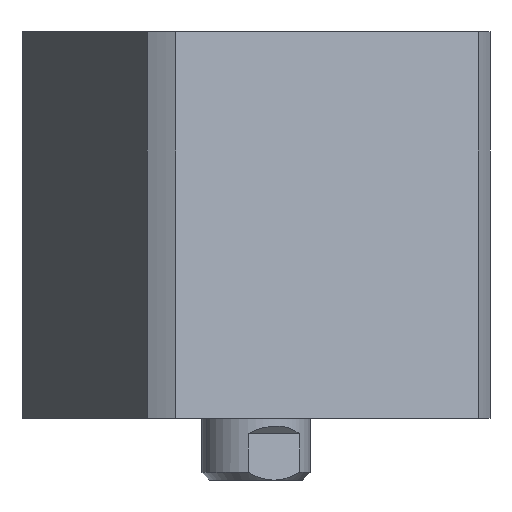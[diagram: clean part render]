
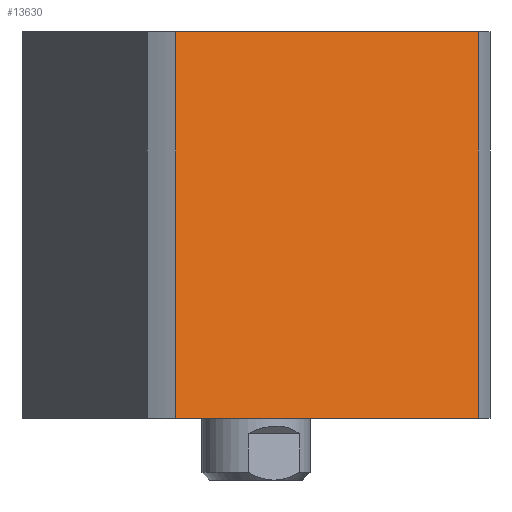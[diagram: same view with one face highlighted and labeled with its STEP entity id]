
A CAD part, left-side view. The second image highlights one B-rep face of the part: STEP entity #13630.
In plain terms, the highlighted planar face has unit normal (-0.924, -0.383, 0) as drawn and (1, 0, 0) by its records, which use the part's own axes.
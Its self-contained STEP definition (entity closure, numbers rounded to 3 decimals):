
#52 = CARTESIAN_POINT ( 'NONE',  ( 24., 21.166, 50. ) ) ;
#577 = VECTOR ( 'NONE', #4266, 1000. ) ;
#1816 = DIRECTION ( 'NONE',  ( 0., 0., 1. ) ) ;
#2322 = EDGE_CURVE ( 'NONE', #10762, #3694, #11502, .T. ) ;
#2700 = PLANE ( 'NONE',  #5587 ) ;
#3204 = CARTESIAN_POINT ( 'NONE',  ( 24., 21.166, 0. ) ) ;
#3505 = LINE ( 'NONE', #10875, #577 ) ;
#3694 = VERTEX_POINT ( 'NONE', #3204 ) ;
#4266 = DIRECTION ( 'NONE',  ( 0., 1., 0. ) ) ;
#4421 = EDGE_CURVE ( 'NONE', #6967, #5527, #11371, .T. ) ;
#4763 = LINE ( 'NONE', #7357, #13229 ) ;
#5337 = DIRECTION ( 'NONE',  ( 0., 0., -1. ) ) ;
#5527 = VERTEX_POINT ( 'NONE', #9326 ) ;
#5587 = AXIS2_PLACEMENT_3D ( 'NONE', #11540, #13755, #7166 ) ;
#5645 = VECTOR ( 'NONE', #5337, 1000. ) ;
#5759 = EDGE_CURVE ( 'NONE', #5527, #10762, #4763, .T. ) ;
#6287 = CARTESIAN_POINT ( 'NONE',  ( 24., -21.166, 0. ) ) ;
#6454 = CARTESIAN_POINT ( 'NONE',  ( 24., 21.166, -250. ) ) ;
#6967 = VERTEX_POINT ( 'NONE', #6287 ) ;
#7166 = DIRECTION ( 'NONE',  ( 0., -1., 0. ) ) ;
#7357 = CARTESIAN_POINT ( 'NONE',  ( 24., 24., 50. ) ) ;
#8322 = EDGE_LOOP ( 'NONE', ( #10142, #9273, #11194, #8964 ) ) ;
#8447 = VECTOR ( 'NONE', #1816, 1000. ) ;
#8456 = DIRECTION ( 'NONE',  ( 0., 1., 0. ) ) ;
#8964 = ORIENTED_EDGE ( 'NONE', *, *, #5759, .F. ) ;
#9273 = ORIENTED_EDGE ( 'NONE', *, *, #12483, .T. ) ;
#9326 = CARTESIAN_POINT ( 'NONE',  ( 24., -21.166, 50. ) ) ;
#9549 = CARTESIAN_POINT ( 'NONE',  ( 24., -21.166, -250. ) ) ;
#10142 = ORIENTED_EDGE ( 'NONE', *, *, #4421, .F. ) ;
#10396 = FACE_OUTER_BOUND ( 'NONE', #8322, .T. ) ;
#10762 = VERTEX_POINT ( 'NONE', #52 ) ;
#10875 = CARTESIAN_POINT ( 'NONE',  ( 24., 24., 0. ) ) ;
#11194 = ORIENTED_EDGE ( 'NONE', *, *, #2322, .F. ) ;
#11371 = LINE ( 'NONE', #9549, #8447 ) ;
#11502 = LINE ( 'NONE', #6454, #5645 ) ;
#11540 = CARTESIAN_POINT ( 'NONE',  ( 24., 24., 50. ) ) ;
#12483 = EDGE_CURVE ( 'NONE', #6967, #3694, #3505, .T. ) ;
#13229 = VECTOR ( 'NONE', #8456, 1000. ) ;
#13630 = ADVANCED_FACE ( 'NONE', ( #10396 ), #2700, .F. ) ;
#13755 = DIRECTION ( 'NONE',  ( -1., 0., 0. ) ) ;
